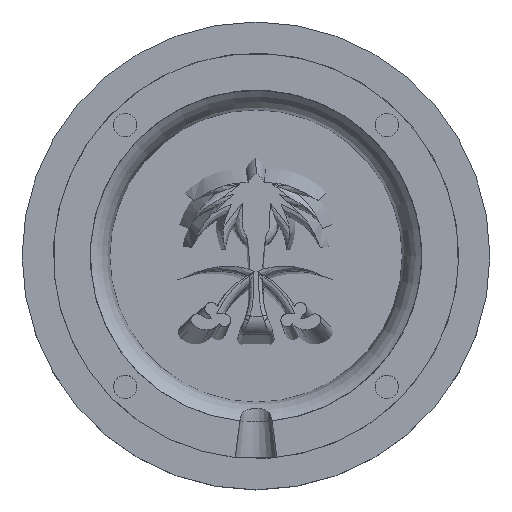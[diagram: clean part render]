
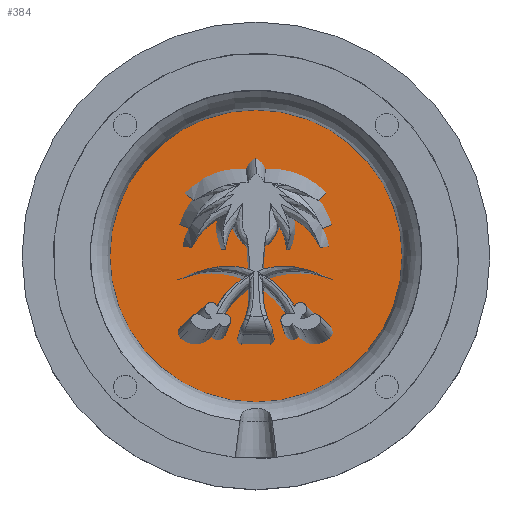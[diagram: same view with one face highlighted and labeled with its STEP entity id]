
A CAD part, top view. The second image highlights one B-rep face of the part: STEP entity #384.
In plain terms, the highlighted planar face has unit normal (0, 0, 1).
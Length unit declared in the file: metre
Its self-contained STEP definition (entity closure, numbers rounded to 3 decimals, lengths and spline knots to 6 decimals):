
#384 = ADVANCED_FACE( '', ( #782 ), #783, .T. );
#782 = FACE_OUTER_BOUND( '', #6292, .T. );
#783 = PLANE( '', #6293 );
#6292 = EDGE_LOOP( '', ( #8009 ) );
#6293 = AXIS2_PLACEMENT_3D( '', #8010, #8011, #8012 );
#8009 = ORIENTED_EDGE( '', *, *, #8283, .F. );
#8010 = CARTESIAN_POINT( '', ( 0., 0., 0.003 ) );
#8011 = DIRECTION( '', ( 0., 0., 1. ) );
#8012 = DIRECTION( '', ( 1., 0., 0. ) );
#8283 = EDGE_CURVE( '', #8953, #8953, #8954, .F. );
#8953 = VERTEX_POINT( '', #12431 );
#8954 = CIRCLE( '', #12432, 0.0375 );
#12431 = CARTESIAN_POINT( '', ( 0.0375, 0., 0.003 ) );
#12432 = AXIS2_PLACEMENT_3D( '', #14253, #14254, #14255 );
#14253 = CARTESIAN_POINT( '', ( 0., 0., 0.003 ) );
#14254 = DIRECTION( '', ( 0., 0., 1. ) );
#14255 = DIRECTION( '', ( 1., 0., 0. ) );
